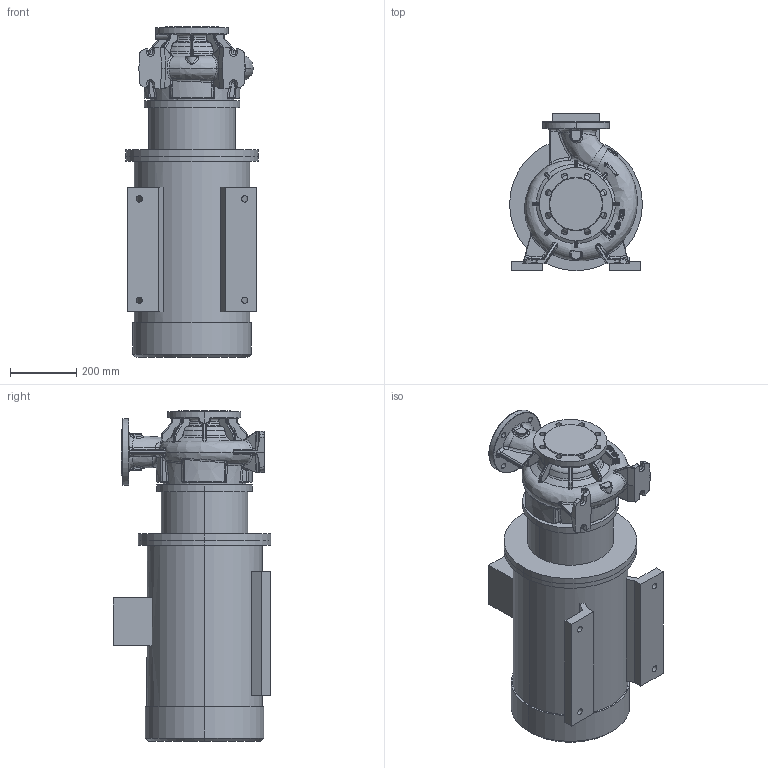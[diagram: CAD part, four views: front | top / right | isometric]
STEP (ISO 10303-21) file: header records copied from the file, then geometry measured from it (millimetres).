
FILE_DESCRIPTION (( 'STEP AP214' ), '1' );
FILE_NAME ('KRM 125-100-200-2-37.STEP', '2026-04-22T13:47:35', ( '' ), ( '' ), 'SwSTEP 2.0', 'SolidWorks 2016', '' );
FILE_SCHEMA (( 'AUTOMOTIVE_DESIGN' ));
Length unit declared in the file: millimetre
Products named in the file (1): KRM 125-100-200-2-37
Bounding box: 400 x 475 x 995.8 mm (x, y, z)
Volume: 88206585.8 mm3; surface area: 2345425.8 mm2
Topology: 14 solids, 14 shells, 1370 faces, 3283 edges, 1958 vertices
Faces by surface type: bspline 620, cylinder 304, plane 222, torus 119, cone 77, sphere 28
Entity records: 106708 total; most frequent: CARTESIAN_POINT 64391, ORIENTED_EDGE 6550, DIRECTION 4476, EDGE_CURVE 3275, VERTEX_POINT 1958, AXIS2_PLACEMENT_3D 1860, EDGE_LOOP 1441, UNCERTAINTY_MEASURE_WITH_UNIT 1386
